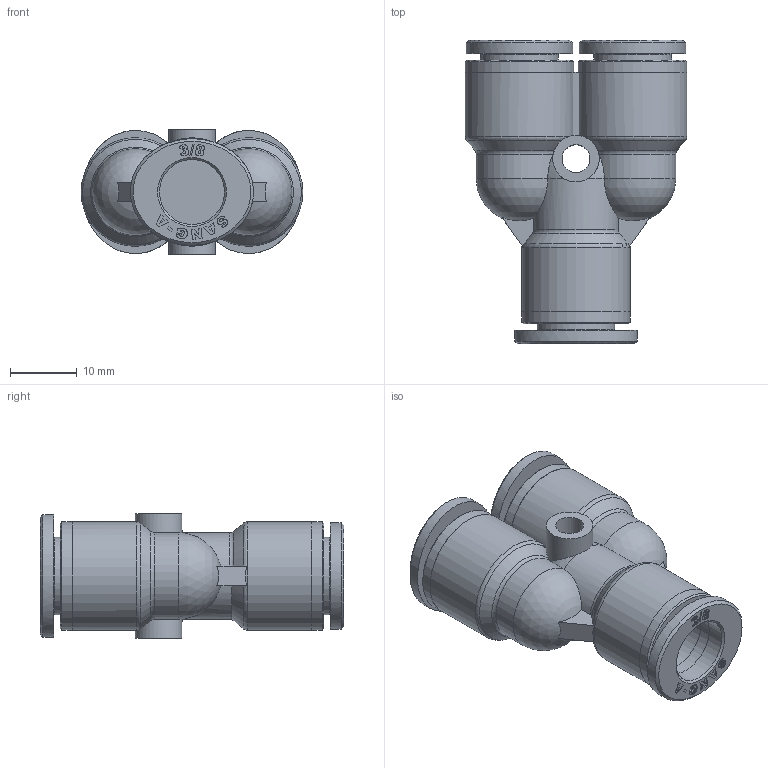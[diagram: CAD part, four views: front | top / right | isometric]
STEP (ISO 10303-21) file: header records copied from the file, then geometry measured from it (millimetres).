
FILE_DESCRIPTION((''),'2;1');
FILE_NAME('C:\Users\user0117\Desktop\김진일\홈페이지\3_8\Internet\GPY 3_8.stp','2019-09-05T15:10:37',('user0117'),(''),'Autodesk Inventor 2013','Autodesk Inventor 2013','');
FILE_SCHEMA(('AUTOMOTIVE_DESIGN { 1 0 10303 214 1 1 1 1 }'));
Length unit declared in the file: millimetre
Products named in the file (5): GPY 3_8; GPY BODY 3-8(PLASTIC); G-COLLAR 3-8L; COLLAR G3-8L; SLEEVE G3-8
Assembly tree (6 placements, depth 3):
  GPY 3_8
    GPY BODY 3-8(PLASTIC)
    G-COLLAR 3-8L  x3
      COLLAR G3-8L
      SLEEVE G3-8
Bounding box: 33.3 x 45.6 x 18.7 mm (x, y, z)
Volume: 9269.4 mm3; surface area: 7983.3 mm2
Topology: 7 solids, 7 shells, 1001 faces, 2826 edges, 1884 vertices
Faces by surface type: plane 828, bspline 111, cylinder 37, cone 13, torus 6, sphere 6
Full cylindrical faces by diameter (mm): 4.2 x1, 7 x2, 9.75 x9, 11.7 x3, 16.3 x4
Entity records: 12235 total; most frequent: CARTESIAN_POINT 3086, ORIENTED_EDGE 1996, DIRECTION 1608, EDGE_CURVE 998, VECTOR 812, LINE 812, VERTEX_POINT 674, EDGE_LOOP 402
